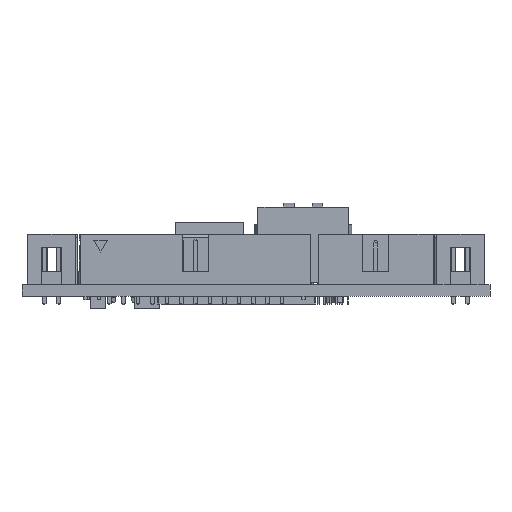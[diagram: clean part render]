
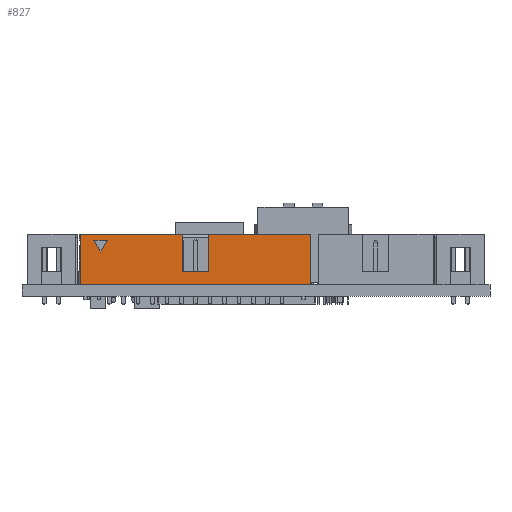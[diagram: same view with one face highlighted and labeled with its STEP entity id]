
A CAD part, left-side view. The second image highlights one B-rep face of the part: STEP entity #827.
In plain terms, the highlighted planar face has unit normal (-1, 0, 0).
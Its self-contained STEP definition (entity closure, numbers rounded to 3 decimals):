
#827=ADVANCED_FACE('',(#23640,#23642),#23644,.T.);
#23640=FACE_BOUND('',#23641,.T.);
#23641=EDGE_LOOP('',(#42065,#42066,#42067,#42068,#42069,#42070,#42071,#42072));
#23642=FACE_BOUND('',#23643,.T.);
#23643=EDGE_LOOP('',(#42073,#42074,#42075));
#23644=PLANE('',#23645);
#23645=AXIS2_PLACEMENT_3D('',#23646,#23647,#23648);
#23646=CARTESIAN_POINT('',(1.,72.2,2.));
#23647=DIRECTION('',(-1.,0.,0.));
#23648=DIRECTION('',(0.,-1.,0.));
#42065=ORIENTED_EDGE('',*,*,#53746,.T.);
#42066=ORIENTED_EDGE('',*,*,#54105,.T.);
#42067=ORIENTED_EDGE('',*,*,#54106,.F.);
#42068=ORIENTED_EDGE('',*,*,#54107,.T.);
#42069=ORIENTED_EDGE('',*,*,#54108,.T.);
#42070=ORIENTED_EDGE('',*,*,#54109,.T.);
#42071=ORIENTED_EDGE('',*,*,#54110,.F.);
#42072=ORIENTED_EDGE('',*,*,#54111,.F.);
#42073=ORIENTED_EDGE('',*,*,#54112,.F.);
#42074=ORIENTED_EDGE('',*,*,#54113,.F.);
#42075=ORIENTED_EDGE('',*,*,#54114,.F.);
#53746=EDGE_CURVE('',#59956,#59957,#59958,.T.);
#54105=EDGE_CURVE('',#59957,#60597,#60598,.T.);
#54106=EDGE_CURVE('',#60599,#60597,#60600,.T.);
#54107=EDGE_CURVE('',#60599,#60601,#60602,.F.);
#54108=EDGE_CURVE('',#60601,#60603,#60604,.T.);
#54109=EDGE_CURVE('',#60603,#60605,#60606,.F.);
#54110=EDGE_CURVE('',#60607,#60605,#60608,.T.);
#54111=EDGE_CURVE('',#59956,#60607,#60609,.T.);
#54112=EDGE_CURVE('',#60610,#60611,#60612,.T.);
#54113=EDGE_CURVE('',#60613,#60610,#60614,.T.);
#54114=EDGE_CURVE('',#60611,#60613,#60615,.T.);
#59956=VERTEX_POINT('',#70086);
#59957=VERTEX_POINT('',#70087);
#59958=LINE('',#70088,#70089);
#60597=VERTEX_POINT('',#71478);
#60598=LINE('',#71479,#71480);
#60599=VERTEX_POINT('',#71482);
#60600=LINE('',#71483,#71484);
#60601=VERTEX_POINT('',#71486);
#60602=LINE('',#71487,#71488);
#60603=VERTEX_POINT('',#71490);
#60604=LINE('',#71491,#71492);
#60605=VERTEX_POINT('',#71494);
#60606=LINE('',#71495,#71496);
#60607=VERTEX_POINT('',#71498);
#60608=LINE('',#71499,#71500);
#60609=LINE('',#71502,#71503);
#60610=VERTEX_POINT('',#71505);
#60611=VERTEX_POINT('',#71506);
#60612=LINE('',#71507,#71508);
#60613=VERTEX_POINT('',#71510);
#60614=LINE('',#71511,#71512);
#60615=LINE('',#71514,#71515);
#70086=CARTESIAN_POINT('',(1.,72.2,2.));
#70087=CARTESIAN_POINT('',(1.,31.58,2.));
#70088=CARTESIAN_POINT('',(1.,72.2,2.));
#70089=VECTOR('',#70090,1.);
#70090=DIRECTION('',(0.,-1.,0.));
#71478=CARTESIAN_POINT('',(1.,31.58,10.9));
#71479=CARTESIAN_POINT('',(1.,31.58,2.));
#71480=VECTOR('',#71481,1.);
#71481=DIRECTION('',(0.,0.,1.));
#71482=CARTESIAN_POINT('',(1.,49.64,10.9));
#71483=CARTESIAN_POINT('',(1.,49.64,10.9));
#71484=VECTOR('',#71485,1.);
#71485=DIRECTION('',(0.,-1.,0.));
#71486=CARTESIAN_POINT('',(1.,49.64,4.27));
#71487=CARTESIAN_POINT('',(1.,49.64,4.27));
#71488=VECTOR('',#71489,1.);
#71489=DIRECTION('',(0.,0.,1.));
#71490=CARTESIAN_POINT('',(1.,54.14,4.27));
#71491=CARTESIAN_POINT('',(1.,49.64,4.27));
#71492=VECTOR('',#71493,1.);
#71493=DIRECTION('',(0.,1.,0.));
#71494=CARTESIAN_POINT('',(1.,54.14,10.9));
#71495=CARTESIAN_POINT('',(1.,54.14,10.9));
#71496=VECTOR('',#71497,1.);
#71497=DIRECTION('',(0.,0.,-1.));
#71498=CARTESIAN_POINT('',(1.,72.2,10.9));
#71499=CARTESIAN_POINT('',(1.,72.2,10.9));
#71500=VECTOR('',#71501,1.);
#71501=DIRECTION('',(0.,-1.,0.));
#71502=CARTESIAN_POINT('',(1.,72.2,2.));
#71503=VECTOR('',#71504,1.);
#71504=DIRECTION('',(0.,0.,1.));
#71505=CARTESIAN_POINT('',(1.,67.444,9.864));
#71506=CARTESIAN_POINT('',(1.,69.844,9.864));
#71507=CARTESIAN_POINT('',(1.,67.444,9.864));
#71508=VECTOR('',#71509,1.);
#71509=DIRECTION('',(0.,1.,0.));
#71510=CARTESIAN_POINT('',(1.,68.644,7.786));
#71511=CARTESIAN_POINT('',(1.,68.644,7.786));
#71512=VECTOR('',#71513,1.);
#71513=DIRECTION('',(0.,-0.5,0.866));
#71514=CARTESIAN_POINT('',(1.,69.844,9.864));
#71515=VECTOR('',#71516,1.);
#71516=DIRECTION('',(0.,-0.5,-0.866));
